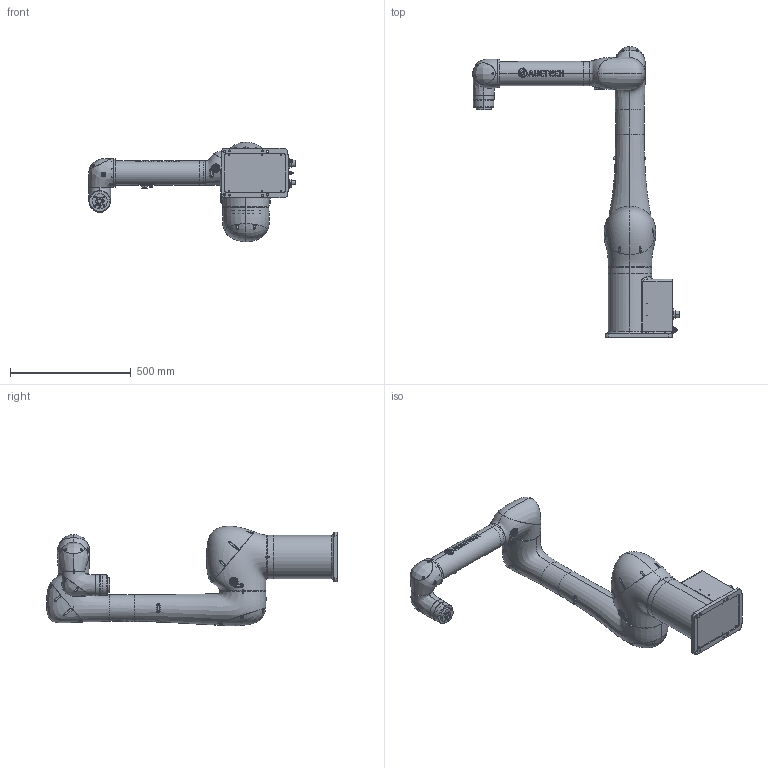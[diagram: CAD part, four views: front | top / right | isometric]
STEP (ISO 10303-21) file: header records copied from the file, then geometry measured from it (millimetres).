
FILE_DESCRIPTION(/* description */ (''),/* implementation_level */ '2;1');
FILE_NAME(/* name */ 'A-HSR-CR610-1500_x_t.stp',/* time_stamp */ '2025-03-28T09:21:31+08:00',/* author */ (''),/* organization */ (''),/* preprocessor_version */ 'ST-DEVELOPER v16.7',/* originating_system */ 'SIEMENS PLM Software NX 12.0',/* authorisation */ '');
FILE_SCHEMA (('AUTOMOTIVE_DESIGN { 1 0 10303 214 3 1 1 1 }'));
Products named in the file (36): HSR-CR610-1500-P01-202406^HSR-CR610-1500-202408-A1_id174_x_t; HSR-CR610-1500-P01-202406^HSR-CR610-1500-202408-A1_id169_x_t; HSR-CR610-1500-P01-202406^HSR-CR610-1500-202408-A1_id164_x_t; HSR-CR610-1500-P01-202406^HSR-CR610-1500-202408-A1_id159_x_t; HSR-CR610-1500-P01-202406^HSR-CR610-1500-202408-A1_id154_x_t; HSR-CR610-1500-P01-202406^HSR-CR610-1500-202408-A1_id149_x_t; HSR-CR610-1500-P02-202408^HSR-CR610-1500-202408-A1_id144_x_t; HSR-CR610-1500-P02-202408^HSR-CR610-1500-202408-A1_id139_x_t; HSR-CR610-1500-P02-202408^HSR-CR610-1500-202408-A1_id134_x_t; HSR-CR610-1500-P03-202408^HSR-CR610-1500-202408-A1_id129_x_t; HSR-CR610-1500-P03-202408^HSR-CR610-1500-202408-A1_id124_x_t; HSR-CR610-1500-P03-202408^HSR-CR610-1500-202408-A1_id119_x_t; HSR-CR610-1500-P03-202408^HSR-CR610-1500-202408-A1_id114_x_t; HSR-CR610-1500-P04-202408^HSR-CR610-1500-202408-A1_id109_x_t; HSR-CR610-1500-P04-202408^HSR-CR610-1500-202408-A1_id104_x_t; HSR-CR610-1500-P04-202408^HSR-CR610-1500-202408-A1_id99_x_t; HSR-CR610-1500-P04-202408^HSR-CR610-1500-202408-A1_id94_x_t; HSR-CR610-1500-P04-202408^HSR-CR610-1500-202408-A1_id89_x_t; HSR-CR610-1500-P04-202408^HSR-CR610-1500-202408-A1_id84_x_t; HSR-CR610-1500-P05-202406^HSR-CR610-1500-202408-A1_id79_x_t; HSR-CR610-1500-P05-202406^HSR-CR610-1500-202408-A1_id74_x_t; HSR-CR610-1500-P05-202406^HSR-CR610-1500-202408-A1_id69_x_t; HSR-CR610-1500-P05-202406^HSR-CR610-1500-202408-A1_id64_x_t; HSR-CR610-1500-P05-202406^HSR-CR610-1500-202408-A1_id59_x_t; HSR-CR610-1500-P05-202406^HSR-CR610-1500-202408-A1_id54_x_t; HSR-CR610-1500-P05-202406^HSR-CR610-1500-202408-A1_id49_x_t; HSR-CR610-1500-P05-202406^HSR-CR610-1500-202408-A1_id44_x_t; HSR-CR610-1500-P05-202406^HSR-CR610-1500-202408-A1_id39_x_t; HSR-CR610-1500-P05-202406^HSR-CR610-1500-202408-A1_id34_x_t; HSR-CR610-1500-P05-202406^HSR-CR610-1500-202408-A1_id29_x_t; HSR-CR610-1500-P06-202406^HSR-CR610-1500-202408-A1_id24_x_t; HSR-CR610-1500-P06-202406^HSR-CR610-1500-202408-A1_id19_x_t; HSR-CR610-1500-P06-202406^HSR-CR610-1500-202408-A1_id14_x_t; HSR-CR610-1500-P07-202406^HSR-CR610-1500-202408-A1_id9_x_t; HSR-CR610-1500-202408-A1_id6_x_t; A-HSR-CR610-1500_x_t
Assembly tree (35 placements, depth 3):
  A-HSR-CR610-1500_x_t
    HSR-CR610-1500-202408-A1_id6_x_t
      HSR-CR610-1500-P07-202406^HSR-CR610-1500-202408-A1_id9_x_t
      HSR-CR610-1500-P06-202406^HSR-CR610-1500-202408-A1_id14_x_t
      HSR-CR610-1500-P06-202406^HSR-CR610-1500-202408-A1_id19_x_t
      HSR-CR610-1500-P06-202406^HSR-CR610-1500-202408-A1_id24_x_t
      HSR-CR610-1500-P05-202406^HSR-CR610-1500-202408-A1_id29_x_t
      HSR-CR610-1500-P05-202406^HSR-CR610-1500-202408-A1_id34_x_t
      HSR-CR610-1500-P05-202406^HSR-CR610-1500-202408-A1_id39_x_t
      HSR-CR610-1500-P05-202406^HSR-CR610-1500-202408-A1_id44_x_t
      HSR-CR610-1500-P05-202406^HSR-CR610-1500-202408-A1_id49_x_t
      HSR-CR610-1500-P05-202406^HSR-CR610-1500-202408-A1_id54_x_t
      HSR-CR610-1500-P05-202406^HSR-CR610-1500-202408-A1_id59_x_t
      HSR-CR610-1500-P05-202406^HSR-CR610-1500-202408-A1_id64_x_t
      HSR-CR610-1500-P05-202406^HSR-CR610-1500-202408-A1_id69_x_t
      HSR-CR610-1500-P05-202406^HSR-CR610-1500-202408-A1_id74_x_t
      HSR-CR610-1500-P05-202406^HSR-CR610-1500-202408-A1_id79_x_t
      HSR-CR610-1500-P04-202408^HSR-CR610-1500-202408-A1_id84_x_t
      HSR-CR610-1500-P04-202408^HSR-CR610-1500-202408-A1_id89_x_t
      HSR-CR610-1500-P04-202408^HSR-CR610-1500-202408-A1_id94_x_t
      HSR-CR610-1500-P04-202408^HSR-CR610-1500-202408-A1_id99_x_t
      HSR-CR610-1500-P04-202408^HSR-CR610-1500-202408-A1_id104_x_t
      HSR-CR610-1500-P04-202408^HSR-CR610-1500-202408-A1_id109_x_t
      HSR-CR610-1500-P03-202408^HSR-CR610-1500-202408-A1_id114_x_t
      HSR-CR610-1500-P03-202408^HSR-CR610-1500-202408-A1_id119_x_t
      HSR-CR610-1500-P03-202408^HSR-CR610-1500-202408-A1_id124_x_t
      HSR-CR610-1500-P03-202408^HSR-CR610-1500-202408-A1_id129_x_t
      HSR-CR610-1500-P02-202408^HSR-CR610-1500-202408-A1_id134_x_t
      HSR-CR610-1500-P02-202408^HSR-CR610-1500-202408-A1_id139_x_t
      HSR-CR610-1500-P02-202408^HSR-CR610-1500-202408-A1_id144_x_t
      HSR-CR610-1500-P01-202406^HSR-CR610-1500-202408-A1_id149_x_t
      HSR-CR610-1500-P01-202406^HSR-CR610-1500-202408-A1_id154_x_t
      HSR-CR610-1500-P01-202406^HSR-CR610-1500-202408-A1_id159_x_t
      HSR-CR610-1500-P01-202406^HSR-CR610-1500-202408-A1_id164_x_t
      HSR-CR610-1500-P01-202406^HSR-CR610-1500-202408-A1_id169_x_t
      HSR-CR610-1500-P01-202406^HSR-CR610-1500-202408-A1_id174_x_t
Bounding box: 857.41 x 1203.43 x 411.49 mm (x, y, z)
Volume: 40998238 mm3; surface area: 1964322.5 mm2
Topology: 34 solids, 71 shells, 1918 faces, 4543 edges, 2880 vertices
Faces by surface type: cylinder 893, plane 523, bspline 214, cone 198, torus 75, sphere 15
Entity records: 306830 total; most frequent: CARTESIAN_POINT 258168, DIRECTION 8970, ORIENTED_EDGE 8838, EDGE_CURVE 4419, AXIS2_PLACEMENT_3D 3717, VERTEX_POINT 2880, EDGE_LOOP 2319, CIRCLE 1965
